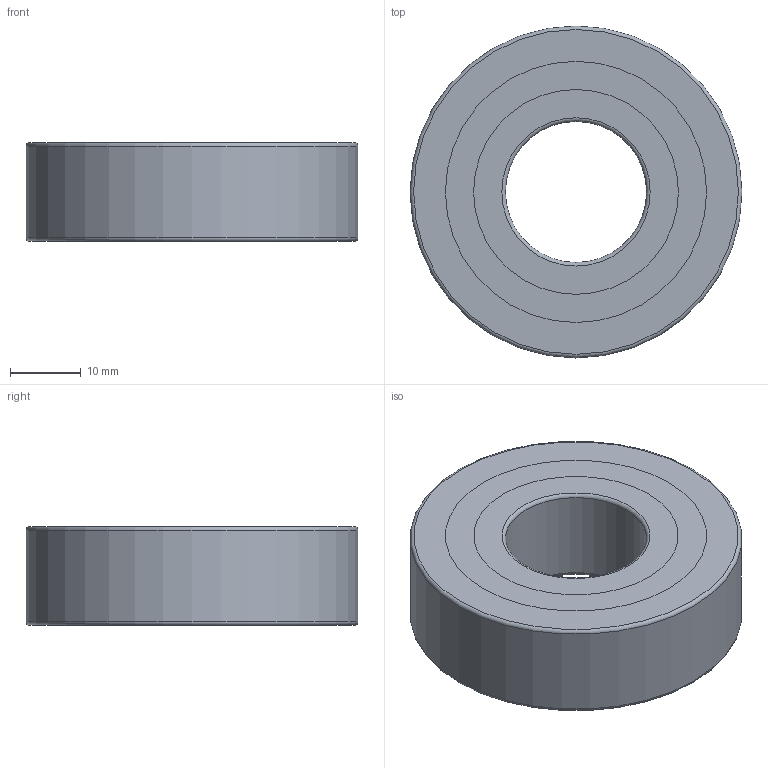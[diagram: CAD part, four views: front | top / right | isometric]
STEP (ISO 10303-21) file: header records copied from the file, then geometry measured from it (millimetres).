
FILE_DESCRIPTION(/* description */ (''),/* implementation_level */ '2;1');
FILE_NAME(/* name */ '301087 FK 6204-2RS.stp',/* time_stamp */ '2016-11-18T08:48:32+01:00',/* author */ (''),/* organization */ (''),/* preprocessor_version */ 'ST-DEVELOPER v15',/* originating_system */ 'SIEMENS PLM Software NX 8.5',/* authorisation */ '');
FILE_SCHEMA (('CONFIG_CONTROL_DESIGN'));
Length unit declared in the file: millimetre
Products named in the file (3): ATE0000079_01; ATE0000104_01; ATE0000105_01
Assembly tree (2 placements, depth 2):
  ATE0000105_01
    ATE0000104_01
    ATE0000079_01
Bounding box: 47 x 47 x 14 mm (x, y, z)
Volume: 17049.2 mm3; surface area: 11651.3 mm2
Topology: 4 solids, 4 shells, 72 faces, 156 edges, 102 vertices
Faces by surface type: plane 44, cylinder 22, torus 6
Full cylindrical faces by diameter (mm): 20 x1, 29 x4, 33 x1, 35 x1, 36 x2, 37 x4, 47 x1
Entity records: 2130 total; most frequent: DIRECTION 342, CARTESIAN_POINT 299, ORIENTED_EDGE 256, AXIS2_PLACEMENT_3D 139, EDGE_CURVE 128, EDGE_LOOP 112, VERTEX_POINT 96, ADVANCED_FACE 72
